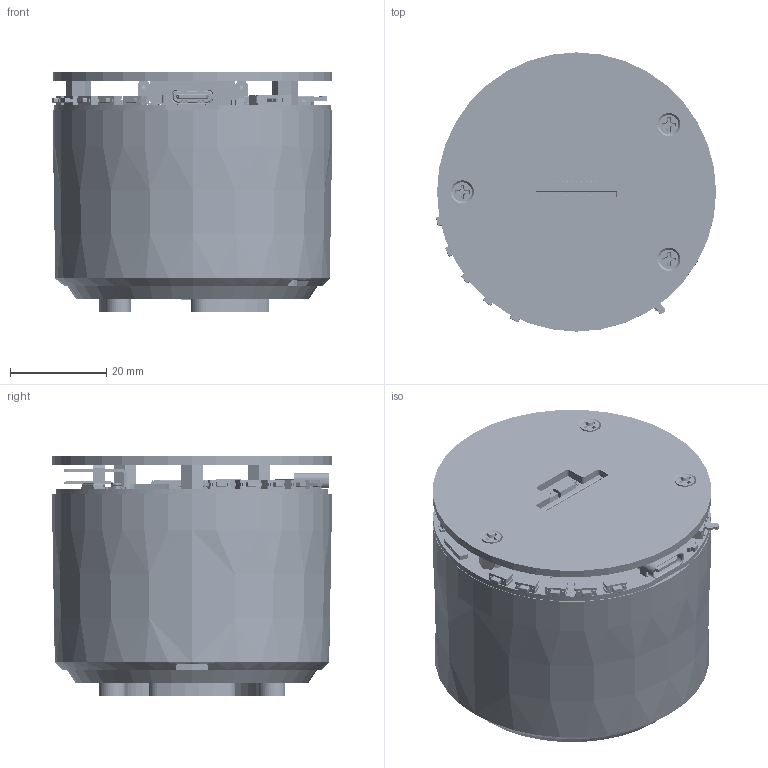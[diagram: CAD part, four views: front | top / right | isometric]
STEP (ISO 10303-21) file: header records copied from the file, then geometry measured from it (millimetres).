
FILE_DESCRIPTION((''),'2;1');
FILE_NAME('ESP32-S3-AUDIO_ASM','2026-03-05T18:08:12',('xiaojisheng'),(''),'CREO PARAMETRIC BY PTC INC, 2021063','CREO PARAMETRIC BY PTC INC, 2021063','');
FILE_SCHEMA(('CONFIG_CONTROL_DESIGN','SHAPE_APPEARANCE_LAYERS_GROUPS'));
Products named in the file (377): ESP32-S3-TOUCH-LCD-1_85-BASE; SPK-4020-5W; BATTERY-803040-1000MAH; ESP32-S3-AUDIO-PMMA-A; HEX_STUDS-M2_5XH25MM; HEX_STUDS-M2_5X5-H6; ESP32-S3-AUDIO-PMMA-B; BOARD; _2_1_20001; 5_1_2_A; _7_AF0; R_0402-3099_AF0_ASM_ASM; R_0402-5222_AF0_ASM_ASM; R0402_ASM; R81_ASM; R80_ASM; R79_ASM; RESC1608_0603_; R78_ASM; R53_ASM; USER_LIBRARY-RES_0603-0201_1; USER_LIBRARY-RES_0603-0201_2; USER_LIBRARY-RES_0603-0201_3; USER_LIBRARY-RES_0603-0201_4; USER_LIBRARY-RES_0603-0201_ASM; R17_ASM; R16_ASM; EXTRUDED-46985; 1555171472_ASM; U19_ASM; R77_ASM; R44_ASM; R7_ASM; USER_LIBRARY-0201_0603M__CAP_1; USER_LIBRARY-0201_0603M__CAP_2; USER_LIBRARY-0201_0603M__CAP_3; USER_LIBRARY-0201_0603M__CAP_ASM; C33_ASM; R76_ASM; R27_ASM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
Assembly tree (620 placements, depth 9):
  ESP32-S3-AUDIO_ASM
    ESP32-S3-TOUCH-LCD-1_85-BASE
    SPK-4020-5W
    BATTERY-803040-1000MAH
    ESP32-S3-AUDIO-PMMA-A
    HEX_STUDS-M2_5XH25MM  x3
    HEX_STUDS-M2_5X5-H6  x3
    ESP32-S3-AUDIO-PMMA-B
    ESP32-S3-AUDIO-PCBA_ASM
      ESP32-S3-AUDIO-BOARD_ASM
        PCB_ASM
          BOARD
          R81_ASM
            R0402_ASM
              R_0402-5222_AF0_ASM_ASM
                R_0402-3099_AF0_ASM_ASM
                  _2_1_20001
                  5_1_2_A
                  _7_AF0
          R80_ASM
            R0402_ASM
              R_0402-5222_AF0_ASM_ASM
                R_0402-3099_AF0_ASM_ASM
                  _2_1_20001
                  5_1_2_A
                  _7_AF0
          R79_ASM
            R0402_ASM
              R_0402-5222_AF0_ASM_ASM
                R_0402-3099_AF0_ASM_ASM
                  _2_1_20001
                  5_1_2_A
                  _7_AF0
          R78_ASM
            RESC1608_0603_
          R53_ASM
            RESC1608_0603_
          R17_ASM
            USER_LIBRARY-RES_0603-0201_ASM
              USER_LIBRARY-RES_0603-0201_1
              USER_LIBRARY-RES_0603-0201_2
              USER_LIBRARY-RES_0603-0201_3
              USER_LIBRARY-RES_0603-0201_4
          R16_ASM
            USER_LIBRARY-RES_0603-0201_ASM
              USER_LIBRARY-RES_0603-0201_1
              USER_LIBRARY-RES_0603-0201_2
              USER_LIBRARY-RES_0603-0201_3
              USER_LIBRARY-RES_0603-0201_4
          U19_ASM
            1555171472_ASM
              EXTRUDED-46985
          R77_ASM
            USER_LIBRARY-RES_0603-0201_ASM
              USER_LIBRARY-RES_0603-0201_1
              USER_LIBRARY-RES_0603-0201_2
              USER_LIBRARY-RES_0603-0201_3
              USER_LIBRARY-RES_0603-0201_4
          R44_ASM
            USER_LIBRARY-RES_0603-0201_ASM
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Bounding box: 58.23 x 58 x 49.7 mm (x, y, z)
Volume: 59020.5 mm3; surface area: 59460.4 mm2
Topology: 791 solids, 821 shells, 37479 faces, 98250 edges, 63506 vertices
Faces by surface type: plane 23271, extrusion 8031, cylinder 4676, sphere 958, cone 230, bspline 229, torus 84
Entity records: 448326 total; most frequent: CARTESIAN_POINT 107072, ORIENTED_EDGE 53272, DIRECTION 49828, EDGE_CURVE 26665, PRESENTATION_STYLE_ASSIGNMENT 23873, STYLED_ITEM 22817, VECTOR 21088, CURVE_STYLE 20588
